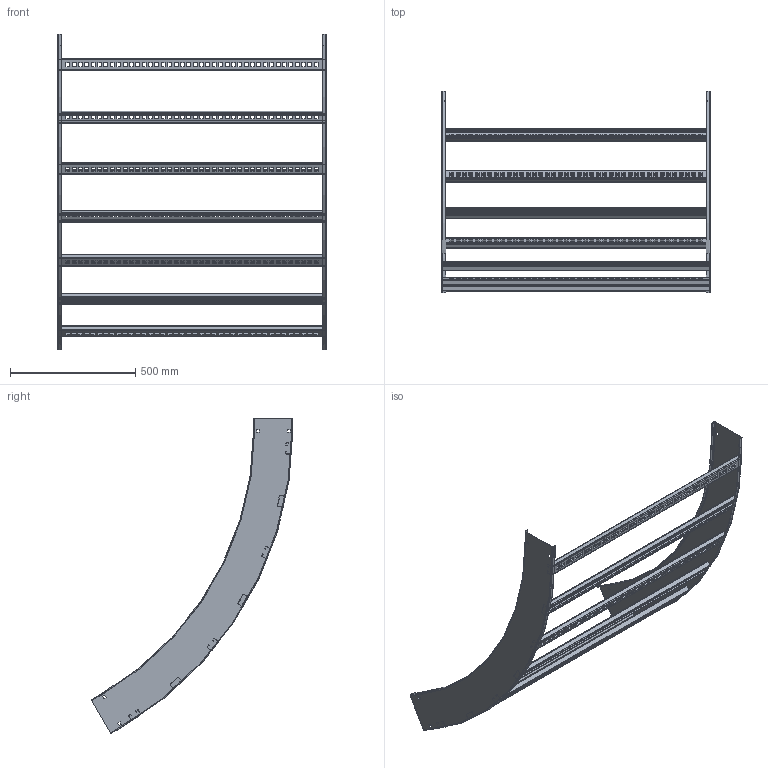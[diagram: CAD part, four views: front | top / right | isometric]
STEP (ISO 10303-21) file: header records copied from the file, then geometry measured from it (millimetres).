
FILE_DESCRIPTION((''),'2;1');
FILE_NAME('AUF642LVI6048_ASM','2010-01-28T',('erouzier'),(''),'PRO/ENGINEER BY PARAMETRIC TECHNOLOGY CORPORATION, 2008510','PRO/ENGINEER BY PARAMETRIC TECHNOLOGY CORPORATION, 2008510','');
FILE_SCHEMA(('CONFIG_CONTROL_DESIGN'));
Length unit declared in the file: inch
Products named in the file (3): CDS001418_6_60_48; CDS002159L42-P; AUF642LVI6048_ASM
Assembly tree (9 placements, depth 2):
  AUF642LVI6048_ASM
    CDS001418_6_60_48  x2
    CDS002159L42-P  x7
Bounding box: 1070.91 x 804.61 x 1258.08 mm (x, y, z)
Volume: 2037000.7 mm3; surface area: 2706912.7 mm2
Topology: 9 solids, 9 shells, 2566 faces, 7580 edges, 5032 vertices
Faces by surface type: plane 1337, cylinder 1221, torus 8
Entity records: 13784 total; most frequent: DIRECTION 2390, CARTESIAN_POINT 2376, ORIENTED_EDGE 2360, EDGE_CURVE 1180, VECTOR 810, LINE 810, AXIS2_PLACEMENT_3D 790, VERTEX_POINT 776
